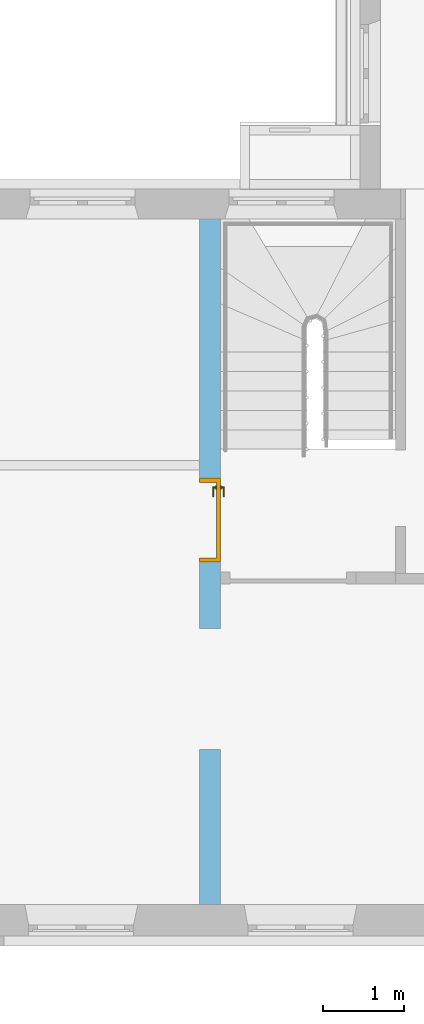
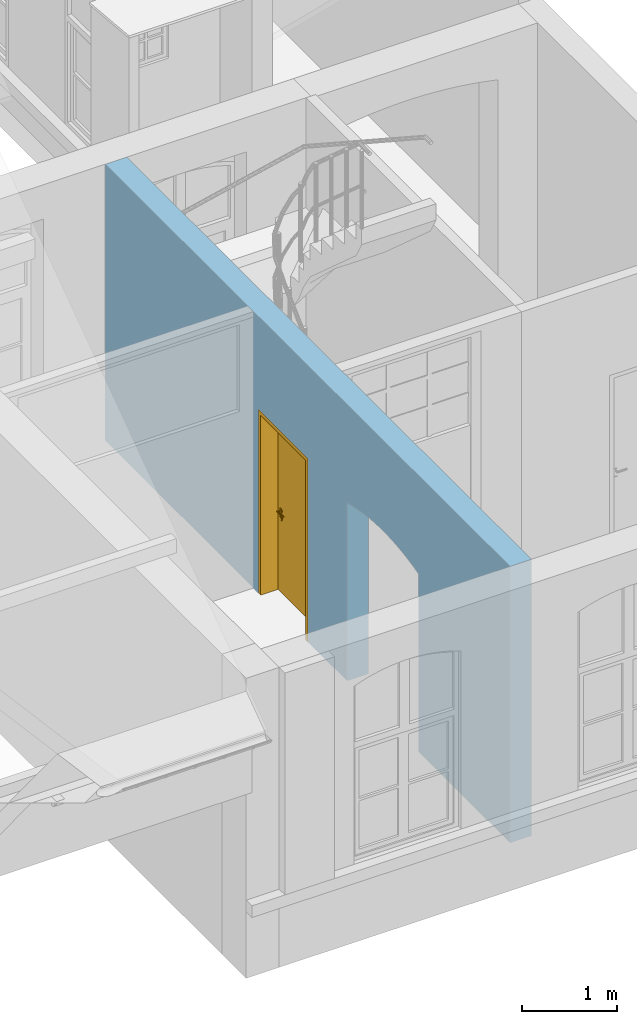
"""IFC4 building model written with IfcOpenShell, lengths in metres."""

import ifcopenshell
import ifcopenshell.guid

model = None  # the IFC model being written
_history = None  # IfcOwnerHistory: only IFC2X3 demands one
_inside = {}  # id of a spatial element -> (the spatial element, [elements in it])
_under = {}  # id of a project, library or spatial element -> (it, [spatial elements below it])
_declared = {}  # id of a project -> (the project, [libraries it declares])
_typed = {}  # id of a type object -> (the type object, [elements of that type])
_made_of = {}  # id of a material, layer set ... -> (it, [elements and type objects made of it])


def new_model(schema):
    """Start an empty IFC model of exactly this schema.

    Asked for "IFC4X3", IfcOpenShell would pick the latest addendum, in which some entities
    have other attributes; the version numbers below select the first issue.
    IFC2X3 requires an IfcOwnerHistory on every rooted entity: one is made here for all.
    """
    global model, _history
    if schema == "IFC4X3":
        model = ifcopenshell.file(schema_version=(4, 3, 0, 0))
    else:
        model = ifcopenshell.file(schema=schema)
    _inside.clear()
    _under.clear()
    _declared.clear()
    _typed.clear()
    _made_of.clear()
    _history = None
    if model.schema == "IFC2X3":
        org = make("IfcOrganization", Name="unknown")
        user = make(
            "IfcPersonAndOrganization",
            ThePerson=make("IfcPerson", FamilyName="unknown"),
            TheOrganization=org,
        )
        app = make(
            "IfcApplication",
            ApplicationDeveloper=org,
            Version="unknown",
            ApplicationFullName="unknown",
            ApplicationIdentifier="unknown",
        )
        _history = make(
            "IfcOwnerHistory",
            OwningUser=user,
            OwningApplication=app,
            ChangeAction="ADDED",
            CreationDate=0,
        )
    return model


def make(cls, **values):
    """One entity of the class cls with the attributes given. An attribute that is None is left unset."""
    return model.create_entity(
        cls, **{name: value for name, value in values.items() if value is not None}
    )


def entity(cls, *values):
    """Any entity or typed value of the class cls, its attributes in the order of the schema. None: left unset."""
    e = model.create_entity(cls)
    for i, value in enumerate(values):
        if value is not None:
            e[i] = value
    return e


def rooted(cls, **values):
    """An entity with a GlobalId (a new one), such as an element, a storey or a relation."""
    return make(cls, GlobalId=ifcopenshell.guid.new(), OwnerHistory=_history, **values)


def si_unit(unit_type, name, prefix=None):
    """IfcSIUnit, for example si_unit("LENGTHUNIT", "METRE", prefix="MILLI")."""
    return make("IfcSIUnit", UnitType=unit_type, Prefix=prefix, Name=name)


def converted_unit(unit_type, name, factor, base, dimensions=None, offset=None):
    """IfcConversionBasedUnit, such as the inch: factor (a typed value) times the base unit."""
    return make(
        "IfcConversionBasedUnit"
        if offset is None
        else "IfcConversionBasedUnitWithOffset",
        ConversionOffset=offset,
        Dimensions=None
        if dimensions is None
        else entity("IfcDimensionalExponents", *dimensions),
        UnitType=unit_type,
        Name=name,
        ConversionFactor=make(
            "IfcMeasureWithUnit", ValueComponent=factor, UnitComponent=base
        ),
    )


def derived_unit(unit_type, elements):
    """IfcDerivedUnit: a product of units, each with its exponent."""
    return make(
        "IfcDerivedUnit",
        Elements=[
            make("IfcDerivedUnitElement", Unit=unit, Exponent=power)
            for unit, power in elements
        ],
        UnitType=unit_type,
    )


def assignment(units):
    """IfcUnitAssignment: the units of a project."""
    return None if units is None else make("IfcUnitAssignment", Units=units)


def point(xyz):
    """IfcCartesianPoint."""
    return None if xyz is None else make("IfcCartesianPoint", Coordinates=xyz)


def direction(xyz):
    """IfcDirection."""
    return None if xyz is None else make("IfcDirection", DirectionRatios=xyz)


def frame(location, z_axis=None, x_axis=None):
    """IfcAxis2Placement3D, a coordinate frame: its origin and axes. An axis left out is left unset."""
    return make(
        "IfcAxis2Placement3D",
        Location=point(location),
        Axis=direction(z_axis),
        RefDirection=direction(x_axis),
    )


def frame_2d(location, x_axis=None):
    """IfcAxis2Placement2D, a coordinate frame in the plane: its origin and x axis."""
    return make(
        "IfcAxis2Placement2D", Location=point(location), RefDirection=direction(x_axis)
    )


def origin():
    """The frame at (0, 0, 0) with its axes left unset."""
    return frame((0.0, 0.0, 0.0))


def origin_with_axes():
    """The frame at (0, 0, 0) with the z axis (0, 0, 1) and the x axis (1, 0, 0) written out."""
    return frame((0.0, 0.0, 0.0), z_axis=(0.0, 0.0, 1.0), x_axis=(1.0, 0.0, 0.0))


def place(relative_to, where):
    """IfcLocalPlacement: puts the frame where relative to a parent placement (None: the world)."""
    return make(
        "IfcLocalPlacement", PlacementRelTo=relative_to, RelativePlacement=where
    )


def context(
    kind, dimensions, precision=None, world=None, true_north=None, identifier=None
):
    """IfcGeometricRepresentationContext, for example the 3D "Model" context."""
    return make(
        "IfcGeometricRepresentationContext",
        ContextIdentifier=identifier,
        ContextType=kind,
        CoordinateSpaceDimension=dimensions,
        Precision=precision,
        WorldCoordinateSystem=world,
        TrueNorth=true_north,
    )


def subcontext(parent, identifier, kind, view, scale=None):
    """IfcGeometricRepresentationSubContext, for example "Body" below "Model"."""
    return make(
        "IfcGeometricRepresentationSubContext",
        ContextIdentifier=identifier,
        ContextType=kind,
        ParentContext=parent,
        TargetScale=scale,
        TargetView=view,
    )


def project(units=None, contexts=None):
    """IfcProject with its units and contexts."""
    return rooted(
        "IfcProject",
        Name="project",
        RepresentationContexts=contexts,
        UnitsInContext=assignment(units),
    )


def spatial(cls, under=None, at=None, **own):
    """A site, building, storey or space (cls), placed at a placement, below another one or the project."""
    s = rooted(cls, ObjectPlacement=at, **own)
    if under is not None:
        _under.setdefault(under.id(), (under, []))[1].append(s)
    return s


def polyline(points):
    """IfcPolyline through the points."""
    return make("IfcPolyline", Points=[point(p) for p in points])


def profile(cls, at=None, kind="AREA", **sizes):
    """A parametric profile (cls). Its sizes go by their IFC names, for example OverallWidth=200.0."""
    return make(cls, ProfileType=kind, Position=at, **sizes)


def rectangle(**sizes):
    """IfcRectangleProfileDef."""
    return profile("IfcRectangleProfileDef", **sizes)


def outline(outer, holes=None, kind="AREA"):
    """IfcArbitraryClosedProfileDef: a profile drawn as a closed curve; with holes, ...WithVoids."""
    if holes is None:
        return make("IfcArbitraryClosedProfileDef", ProfileType=kind, OuterCurve=outer)
    return make(
        "IfcArbitraryProfileDefWithVoids",
        ProfileType=kind,
        OuterCurve=outer,
        InnerCurves=holes,
    )


def extrude(swept, where, along, depth):
    """IfcExtrudedAreaSolid: the profile swept, set in the frame where, extruded along a direction by depth."""
    return make(
        "IfcExtrudedAreaSolid",
        SweptArea=swept,
        Position=where,
        ExtrudedDirection=direction(along),
        Depth=depth,
    )


def faces_of(points, faces, orient=None, outer=None):
    """IfcFace entities. A face is a list of loops; a loop is a list of indices into points, from 0.

    orient and outer hold one flag for each loop. By default every Orientation is true, the
    first loop of a face is its IfcFaceOuterBound and the others are IfcFaceBound.
    """
    made = []
    for i, loops in enumerate(faces):
        bounds = []
        for j, loop in enumerate(loops):
            is_outer = j == 0 if outer is None else outer[i][j]
            bounds.append(
                make(
                    "IfcFaceOuterBound" if is_outer else "IfcFaceBound",
                    Bound=make("IfcPolyLoop", Polygon=[points[k] for k in loop]),
                    Orientation=True if orient is None else orient[i][j],
                )
            )
        made.append(make("IfcFace", Bounds=bounds))
    return made


def faceted_brep(points, faces, orient=None, outer=None, voids=None):
    """IfcFacetedBrep: a solid bounded by flat faces; with voids (closed shells), ...WithVoids."""
    shared = [point(p) for p in points]
    hull = make("IfcClosedShell", CfsFaces=faces_of(shared, faces, orient, outer))
    if voids is None:
        return make("IfcFacetedBrep", Outer=hull)
    return make(
        "IfcFacetedBrepWithVoids",
        Outer=hull,
        Voids=[
            make(cls, CfsFaces=faces_of(shared, fs, o, b)) for cls, fs, o, b in voids
        ],
    )


def shape(context_of_items, identifier, shape_type, items):
    """IfcShapeRepresentation: the items that make up one representation, for example the "Body"."""
    return make(
        "IfcShapeRepresentation",
        ContextOfItems=context_of_items,
        RepresentationIdentifier=identifier,
        RepresentationType=shape_type,
        Items=items,
    )


def source(mapping_origin, context_of_items, identifier, shape_type, items):
    """IfcRepresentationMap: a shape defined once, which mapped items show again and again."""
    return make(
        "IfcRepresentationMap",
        MappingOrigin=mapping_origin,
        MappedRepresentation=shape(context_of_items, identifier, shape_type, items),
    )


def transform(
    local_origin,
    x_axis=None,
    y_axis=None,
    z_axis=None,
    scale=None,
    scale2=None,
    scale3=None,
    uniform=True,
):
    """IfcCartesianTransformationOperator3D, or its non-uniform kind. x_axis, y_axis, z_axis: its Axis1, 2, 3."""
    if uniform:
        return make(
            "IfcCartesianTransformationOperator3D",
            Axis1=direction(x_axis),
            Axis2=direction(y_axis),
            LocalOrigin=point(local_origin),
            Scale=scale,
            Axis3=direction(z_axis),
        )
    return make(
        "IfcCartesianTransformationOperator3DnonUniform",
        Axis1=direction(x_axis),
        Axis2=direction(y_axis),
        LocalOrigin=point(local_origin),
        Scale=scale,
        Axis3=direction(z_axis),
        Scale2=scale2,
        Scale3=scale3,
    )


def mapped(mapping_source, mapping_target):
    """IfcMappedItem: shows the shape of a source again, moved by a transform."""
    return make(
        "IfcMappedItem", MappingSource=mapping_source, MappingTarget=mapping_target
    )


def material(Name=None, Category=None):
    """IfcMaterial."""
    return make("IfcMaterial", Name=Name, Category=Category)


def layer(
    of_material, thickness, ventilated=None, Name=None, Category=None, Priority=None
):
    """IfcMaterialLayer: one layer of a wall or slab, of a material (None: an air gap)."""
    return make(
        "IfcMaterialLayer",
        Material=of_material,
        LayerThickness=thickness,
        IsVentilated=ventilated,
        Name=Name,
        Category=Category,
        Priority=Priority,
    )


def layer_set(layers, Name=None):
    """IfcMaterialLayerSet."""
    return make("IfcMaterialLayerSet", MaterialLayers=layers, LayerSetName=Name)


def layer_usage(for_layer_set, set_direction, sense, offset, extent=None):
    """IfcMaterialLayerSetUsage: how a layer set lies in its element."""
    return make(
        "IfcMaterialLayerSetUsage",
        ForLayerSet=for_layer_set,
        LayerSetDirection=set_direction,
        DirectionSense=sense,
        OffsetFromReferenceLine=offset,
        ReferenceExtent=extent,
    )


def made_of(thing, what):
    """Note that an element or type object is made of a material, layer set ...; save() writes the relation."""
    if what is not None:
        _made_of.setdefault(what.id(), (what, []))[1].append(thing)
    return thing


def type_object(cls, material=None, **own):
    """A type object (cls), such as IfcWallType, which elements share."""
    return made_of(rooted(cls, **own), material)


def element(
    cls,
    number,
    at=None,
    inside=None,
    cuts=None,
    type_object=None,
    material=None,
    context=None,
    identifier="Body",
    shape_type=None,
    held_by="IfcProductDefinitionShape",
    body=None,
    shapes=None,
    **own,
):
    """One element of the class cls, such as IfcWall. Its Tag is "e" and its number.

    at: its placement. inside: the storey or other place that contains it. cuts: it is an
    opening in that element (IfcRelVoidsElement). A single representation is given by context,
    identifier, shape_type and body (its items); several are given by shapes. held_by: the class
    of the entity that holds the representations. save() writes the other relations.
    """
    e = rooted(cls, Tag="e%d" % number, ObjectPlacement=at, **own)
    if body is not None:
        shapes = [shape(context, identifier, shape_type, body)]
    if shapes is not None:
        e.Representation = make(held_by, Representations=shapes)
    if inside is not None:
        _inside.setdefault(inside.id(), (inside, []))[1].append(e)
    if cuts is not None:
        rooted(
            "IfcRelVoidsElement", RelatingBuildingElement=cuts, RelatedOpeningElement=e
        )
    if type_object is not None:
        _typed.setdefault(type_object.id(), (type_object, []))[1].append(e)
    return made_of(e, material)


def fill(opening, filler):
    """IfcRelFillsElement: the door or window that sits in an opening."""
    return rooted(
        "IfcRelFillsElement",
        RelatingOpeningElement=opening,
        RelatedBuildingElement=filler,
    )


def aggregate(whole, parts):
    """IfcRelAggregates: a whole, such as a stair, and the parts it consists of."""
    return rooted("IfcRelAggregates", RelatingObject=whole, RelatedObjects=parts)


def save(model, path):
    """Write the relations noted so far, then the file.

    IfcRelAggregates (storeys below a building ...), IfcRelContainedInSpatialStructure (elements
    in a storey), IfcRelDefinesByType, IfcRelAssociatesMaterial and IfcRelDeclares: one each for
    every whole, place, type object, material and project.
    """
    for whole, parts in _under.values():
        aggregate(whole, parts)
    for where, things in _inside.values():
        rooted(
            "IfcRelContainedInSpatialStructure",
            RelatedElements=things,
            RelatingStructure=where,
        )
    for kind, things in _typed.values():
        rooted("IfcRelDefinesByType", RelatedObjects=things, RelatingType=kind)
    for what, things in _made_of.values():
        rooted("IfcRelAssociatesMaterial", RelatedObjects=things, RelatingMaterial=what)
    for by, libraries in _declared.values():
        rooted("IfcRelDeclares", RelatingContext=by, RelatedDefinitions=libraries)
    model.write(path)


model = new_model("IFC4")

# Units and contexts
model_context = context("Model", 3, precision=1e-05, world=origin())
body_context = subcontext(model_context, "Body", "Model", "MODEL_VIEW")
ifc_project = project(units=[si_unit("LENGTHUNIT", "METRE"), si_unit("AREAUNIT", "SQUARE_METRE"), si_unit("VOLUMEUNIT", "CUBIC_METRE"), si_unit("MASSUNIT", "GRAM", prefix="KILO"), converted_unit("PLANEANGLEUNIT", "DEGREE", entity("IfcPlaneAngleMeasure", 0.0174532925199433), si_unit("PLANEANGLEUNIT", "RADIAN"), dimensions=[0, 0, 0, 0, 0, 0, 0]), derived_unit("THERMALTRANSMITTANCEUNIT", [(si_unit("POWERUNIT", "WATT"), 1), (si_unit("THERMODYNAMICTEMPERATUREUNIT", "KELVIN"), -1), (si_unit("LENGTHUNIT", "METRE"), -2)]), derived_unit("VOLUMETRICFLOWRATEUNIT", [(si_unit("LENGTHUNIT", "METRE"), 3), (converted_unit("TIMEUNIT", "hour", entity("IfcTimeMeasure", 3600.0), si_unit("TIMEUNIT", "SECOND"), dimensions=[0, 0, 1, 0, 0, 0, 0]), -1), (si_unit("LENGTHUNIT", "METRE"), -1)])], contexts=[model_context])

# Building, storeys
building_placement = place(None, origin())
building = spatial("IfcBuilding", under=ifc_project, at=building_placement, Name="Bestandsgebäude A - Sporthalle / Wohnhaus (TB 100-499)   ANPASSEN !!!", CompositionType="ELEMENT")
storey_1_placement = place(building_placement, frame((0.0, 0.0, 3.87)))
storey_1 = spatial("IfcBuildingStorey", under=building, at=storey_1_placement, Name="Geb. A 1. Obergeschoss (TB 250-299)", CompositionType="ELEMENT", Elevation=3.87)
storey_2_placement = place(storey_1_placement, frame((0.0, 0.0, 3.87)))
storey_2 = spatial("IfcBuildingStorey", under=storey_1, at=storey_2_placement, Name="Architektur (TB 250-259)", CompositionType="PARTIAL")

# Wall, openings, door
ifc_material = material(Name="masonry")
ifc_layer = layer(ifc_material, 0.26)
ifc_layer_set = layer_set([ifc_layer])
ifc_layer_usage = layer_usage(ifc_layer_set, "AXIS2", "POSITIVE", 0.0)
wall_placement = place(storey_2_placement, frame((-5.48, 8.88, -3.97), z_axis=(0.0, 0.0, 1.0), x_axis=(0.0, -1.0, 0.0)))
wall = element("IfcWall", 1, at=wall_placement, inside=storey_2, material=ifc_layer_usage, Name="masonry load-bearing", PredefinedType="USERDEFINED", context=body_context, shape_type="SweptSolid", body=[
    extrude(rectangle(XDim=8.49, YDim=0.26, at=frame_2d((4.245, 0.13), x_axis=(1.0, 0.0))), origin_with_axes(), (0.0, 0.0, 1.0), 3.54),
])
opening_1_placement = place(wall_placement, frame((3.21, 0.0, 0.0), z_axis=(0.0, 1.0, 0.0), x_axis=(0.0, 0.0, 1.0)))
opening_1 = element("IfcOpeningElement", 2, at=opening_1_placement, cuts=wall, Name="Door opening", PredefinedType="OPENING", context=body_context, shape_type="SweptSolid", body=[
    extrude(outline(polyline([(2.35, 1.04), (2.35, 0.0), (0.0, 0.0), (0.0, 1.04), (2.35, 1.04)])), origin_with_axes(), (0.0, 0.0, 1.0), 0.26),
])
opening_2_placement = place(wall_placement, frame((5.07, 0.0, 0.0), z_axis=(0.0, 1.0, 0.0), x_axis=(0.0, 0.0, 1.0)))
element("IfcOpeningElement", 3, at=opening_2_placement, cuts=wall, Name="Door opening", PredefinedType="OPENING", context=body_context, shape_type="SweptSolid", body=[
    extrude(outline(polyline([(2.28, 1.5), (2.29282303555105, 1.45106226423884), (2.30477921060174, 1.40190555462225), (2.31586479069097, 1.35254522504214), (2.32607631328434, 1.30299669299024), (2.33541058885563, 1.25327543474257), (2.34386470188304, 1.20339698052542), (2.35143601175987, 1.1533769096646), (2.35812215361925, 1.10323084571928), (2.36392103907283, 1.05297445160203), (2.36883085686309, 1.00262342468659), (2.37285007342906, 0.952193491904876), (2.37597743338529, 0.901700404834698), (2.37821195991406, 0.851159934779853), (2.37955295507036, 0.800587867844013), (2.38, 0.75), (2.37955295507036, 0.699412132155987), (2.37821195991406, 0.648840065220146), (2.3759774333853, 0.598299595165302), (2.37285007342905, 0.547806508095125), (2.36883085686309, 0.497376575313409), (2.36392103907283, 0.447025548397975), (2.35812215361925, 0.396769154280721), (2.35143601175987, 0.346623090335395), (2.34386470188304, 0.296603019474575), (2.33541058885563, 0.246724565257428), (2.32607631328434, 0.197003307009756), (2.31586479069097, 0.147454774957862), (2.30477921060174, 0.098094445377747), (2.29282303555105, 0.0489377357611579), (2.28, 0.0), (0.0, 0.0), (0.0, 1.5), (2.28, 1.5)])), origin_with_axes(), (0.0, 0.0, 1.0), 0.26),
])
door_type = type_object("IfcDoorType", Name="door", OperationType="SINGLE_SWING_RIGHT", ParameterTakesPrecedence=False, PredefinedType="DOOR")
shared_shape = source(origin_with_axes(), body_context, "Body", "Brep", [
    faceted_brep([(0.0, 0.260000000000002, 2.35), (0.0, 0.260000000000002, 0.0), (0.0500000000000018, 0.260000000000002, 0.0), (0.0500000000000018, 0.260000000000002, 2.35), (0.0, 0.0, 0.0), (0.0, 0.0, 2.35), (0.0500000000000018, 0.0, 2.35), (0.0500000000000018, 0.0, 0.0)], [[[0, 1, 2, 3]], [[4, 5, 6, 7]], [[1, 0, 5, 4]], [[2, 1, 4, 7]], [[3, 2, 7, 6]], [[0, 3, 6, 5]]], orient=[[False], [False], [False], [False], [False], [False]]),
    faceted_brep([(0.990000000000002, 0.260000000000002, 2.35), (0.990000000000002, 0.260000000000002, 0.0), (1.04, 0.260000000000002, 0.0), (1.04, 0.260000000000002, 2.35), (0.990000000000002, 0.0, 0.0), (0.990000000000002, 0.0, 2.35), (1.04, 0.0, 2.35), (1.04, 0.0, 0.0)], [[[0, 1, 2, 3]], [[4, 5, 6, 7]], [[1, 0, 5, 4]], [[2, 1, 4, 7]], [[3, 2, 7, 6]], [[0, 3, 6, 5]]], orient=[[False], [False], [False], [False], [False], [False]]),
    faceted_brep([(0.0500000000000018, 0.260000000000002, 2.35), (0.0500000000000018, 0.260000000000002, 2.3), (0.990000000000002, 0.260000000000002, 2.3), (0.990000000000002, 0.260000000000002, 2.35), (0.0500000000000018, 0.0, 2.3), (0.0500000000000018, 0.0, 2.35), (0.990000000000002, 0.0, 2.35), (0.990000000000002, 0.0, 2.3)], [[[0, 1, 2, 3]], [[4, 5, 6, 7]], [[1, 0, 5, 4]], [[2, 1, 4, 7]], [[3, 2, 7, 6]], [[0, 3, 6, 5]]], orient=[[False], [False], [False], [False], [False], [False]]),
    faceted_brep([(0.0500000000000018, 0.260000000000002, 2.3), (0.0500000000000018, 0.260000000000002, 0.0), (0.990000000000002, 0.260000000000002, 0.0), (0.990000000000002, 0.260000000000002, 2.3), (0.0500000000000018, 0.210000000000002, 0.0), (0.0500000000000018, 0.210000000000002, 2.3), (0.990000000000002, 0.210000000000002, 2.3), (0.990000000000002, 0.210000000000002, 0.0)], [[[0, 1, 2, 3]], [[4, 5, 6, 7]], [[1, 0, 5, 4]], [[2, 1, 4, 7]], [[3, 2, 7, 6]], [[0, 3, 6, 5]]], orient=[[False], [False], [False], [False], [False], [False]]),
    faceted_brep([(0.138815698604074, 0.210000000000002, 0.93625), (0.142500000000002, 0.210000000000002, 0.95), (0.138815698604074, 0.210000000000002, 0.96375), (0.128750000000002, 0.210000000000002, 0.973815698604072), (0.115000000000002, 0.210000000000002, 0.9775), (0.101250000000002, 0.210000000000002, 0.973815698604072), (0.0911843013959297, 0.210000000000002, 0.96375), (0.0875000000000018, 0.210000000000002, 0.95), (0.0911843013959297, 0.210000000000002, 0.93625), (0.101250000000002, 0.210000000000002, 0.926184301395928), (0.115000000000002, 0.210000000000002, 0.9225), (0.128750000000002, 0.210000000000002, 0.926184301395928), (0.142500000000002, 0.197500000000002, 0.95), (0.138815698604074, 0.197500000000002, 0.93625), (0.128750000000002, 0.197500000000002, 0.926184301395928), (0.115000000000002, 0.197500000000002, 0.9225), (0.101250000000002, 0.197500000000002, 0.926184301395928), (0.0911843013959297, 0.197500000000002, 0.93625), (0.0875000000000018, 0.197500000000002, 0.95), (0.0911843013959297, 0.197500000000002, 0.96375), (0.101250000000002, 0.197500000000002, 0.973815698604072), (0.115000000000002, 0.197500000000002, 0.9775), (0.128750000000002, 0.197500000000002, 0.973815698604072), (0.138815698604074, 0.197500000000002, 0.96375)], [[[0, 1, 2, 3, 4, 5, 6, 7, 8, 9, 10, 11]], [[12, 13, 14, 15, 16, 17, 18, 19, 20, 21, 22, 23]], [[1, 0, 13, 12]], [[2, 1, 12, 23]], [[3, 2, 23, 22]], [[4, 3, 22, 21]], [[5, 4, 21, 20]], [[6, 5, 20, 19]], [[7, 6, 19, 18]], [[8, 7, 18, 17]], [[9, 8, 17, 16]], [[10, 9, 16, 15]], [[11, 10, 15, 14]], [[0, 11, 14, 13]]], orient=[[False], [False], [False], [False], [False], [False], [False], [False], [False], [False], [False], [False], [False], [False]]),
    faceted_brep([(0.138815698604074, 0.210000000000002, 1.03625), (0.142500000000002, 0.210000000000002, 1.05), (0.138815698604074, 0.210000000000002, 1.06375), (0.128750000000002, 0.210000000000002, 1.07381569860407), (0.115000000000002, 0.210000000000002, 1.0775), (0.101250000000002, 0.210000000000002, 1.07381569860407), (0.0911843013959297, 0.210000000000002, 1.06375), (0.0875000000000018, 0.210000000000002, 1.05), (0.0911843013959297, 0.210000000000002, 1.03625), (0.101250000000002, 0.210000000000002, 1.02618430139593), (0.115000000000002, 0.210000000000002, 1.0225), (0.128750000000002, 0.210000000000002, 1.02618430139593), (0.142500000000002, 0.197500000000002, 1.05), (0.138815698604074, 0.197500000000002, 1.03625), (0.128750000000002, 0.197500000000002, 1.02618430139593), (0.115000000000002, 0.197500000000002, 1.0225), (0.101250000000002, 0.197500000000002, 1.02618430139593), (0.0911843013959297, 0.197500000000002, 1.03625), (0.0875000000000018, 0.197500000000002, 1.05), (0.0911843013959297, 0.197500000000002, 1.06375), (0.101250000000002, 0.197500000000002, 1.07381569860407), (0.115000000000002, 0.197500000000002, 1.0775), (0.128750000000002, 0.197500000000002, 1.07381569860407), (0.138815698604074, 0.197500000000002, 1.06375)], [[[0, 1, 2, 3, 4, 5, 6, 7, 8, 9, 10, 11]], [[12, 13, 14, 15, 16, 17, 18, 19, 20, 21, 22, 23]], [[1, 0, 13, 12]], [[2, 1, 12, 23]], [[3, 2, 23, 22]], [[4, 3, 22, 21]], [[5, 4, 21, 20]], [[6, 5, 20, 19]], [[7, 6, 19, 18]], [[8, 7, 18, 17]], [[9, 8, 17, 16]], [[10, 9, 16, 15]], [[11, 10, 15, 14]], [[0, 11, 14, 13]]], orient=[[False], [False], [False], [False], [False], [False], [False], [False], [False], [False], [False], [False], [False], [False]]),
    faceted_brep([(0.115000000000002, 0.210000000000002, 1.06), (0.110000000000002, 0.210000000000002, 1.05866025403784), (0.106339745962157, 0.210000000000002, 1.055), (0.105000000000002, 0.210000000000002, 1.05), (0.106339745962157, 0.210000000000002, 1.045), (0.110000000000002, 0.210000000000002, 1.04133974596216), (0.115000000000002, 0.210000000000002, 1.04), (0.120000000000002, 0.210000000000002, 1.04133974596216), (0.123660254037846, 0.210000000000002, 1.045), (0.125000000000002, 0.210000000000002, 1.05), (0.123660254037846, 0.210000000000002, 1.055), (0.120000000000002, 0.210000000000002, 1.05866025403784), (0.115000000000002, 0.170000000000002, 1.06), (0.110000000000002, 0.165000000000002, 1.05866025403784), (0.106339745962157, 0.161339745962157, 1.055), (0.105000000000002, 0.160000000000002, 1.05), (0.106339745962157, 0.161339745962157, 1.045), (0.110000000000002, 0.165000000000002, 1.04133974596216), (0.115000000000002, 0.170000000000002, 1.04), (0.120000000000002, 0.175000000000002, 1.04133974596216), (0.123660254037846, 0.178660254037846, 1.045), (0.125000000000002, 0.180000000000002, 1.05), (0.123660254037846, 0.178660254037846, 1.055), (0.120000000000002, 0.175000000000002, 1.05866025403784), (0.230000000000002, 0.170000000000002, 1.06), (0.230000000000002, 0.175000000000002, 1.05866025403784), (0.230000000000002, 0.178660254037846, 1.055), (0.230000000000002, 0.180000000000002, 1.05), (0.230000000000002, 0.178660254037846, 1.045), (0.230000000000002, 0.175000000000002, 1.04133974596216), (0.230000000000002, 0.170000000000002, 1.04), (0.230000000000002, 0.165000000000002, 1.04133974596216), (0.230000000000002, 0.161339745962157, 1.045), (0.230000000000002, 0.160000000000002, 1.05), (0.230000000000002, 0.161339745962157, 1.055), (0.230000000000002, 0.165000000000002, 1.05866025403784)], [[[0, 1, 2, 3, 4, 5, 6, 7, 8, 9, 10, 11]], [[0, 12, 13, 1]], [[1, 13, 14, 2]], [[2, 14, 15, 3]], [[3, 15, 16, 4]], [[4, 16, 17, 5]], [[5, 17, 18, 6]], [[6, 18, 19, 7]], [[7, 19, 20, 8]], [[8, 20, 21, 9]], [[9, 21, 22, 10]], [[10, 22, 23, 11]], [[11, 23, 12, 0]], [[24, 25, 26, 27, 28, 29, 30, 31, 32, 33, 34, 35]], [[12, 24, 35, 13]], [[13, 35, 34, 14]], [[14, 34, 33, 15]], [[15, 33, 32, 16]], [[16, 32, 31, 17]], [[17, 31, 30, 18]], [[18, 30, 29, 19]], [[19, 29, 28, 20]], [[20, 28, 27, 21]], [[21, 27, 26, 22]], [[22, 26, 25, 23]], [[23, 25, 24, 12]]], orient=[[False], [False], [False], [False], [False], [False], [False], [False], [False], [False], [False], [False], [False], [False], [False], [False], [False], [False], [False], [False], [False], [False], [False], [False], [False], [False]]),
    faceted_brep([(0.138815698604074, 0.260000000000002, 0.93625), (0.128750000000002, 0.260000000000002, 0.926184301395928), (0.115000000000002, 0.260000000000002, 0.9225), (0.101250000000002, 0.260000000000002, 0.926184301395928), (0.0911843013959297, 0.260000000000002, 0.93625), (0.0875000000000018, 0.260000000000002, 0.95), (0.0911843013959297, 0.260000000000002, 0.96375), (0.101250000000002, 0.260000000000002, 0.973815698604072), (0.115000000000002, 0.260000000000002, 0.9775), (0.128750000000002, 0.260000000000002, 0.973815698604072), (0.138815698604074, 0.260000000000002, 0.96375), (0.142500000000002, 0.260000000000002, 0.95), (0.142500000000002, 0.272500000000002, 0.95), (0.138815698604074, 0.272500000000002, 0.96375), (0.128750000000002, 0.272500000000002, 0.973815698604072), (0.115000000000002, 0.272500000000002, 0.9775), (0.101250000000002, 0.272500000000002, 0.973815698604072), (0.0911843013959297, 0.272500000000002, 0.96375), (0.0875000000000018, 0.272500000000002, 0.95), (0.0911843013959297, 0.272500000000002, 0.93625), (0.101250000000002, 0.272500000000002, 0.926184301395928), (0.115000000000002, 0.272500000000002, 0.9225), (0.128750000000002, 0.272500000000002, 0.926184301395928), (0.138815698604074, 0.272500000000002, 0.93625)], [[[0, 1, 2, 3, 4, 5, 6, 7, 8, 9, 10, 11]], [[12, 13, 14, 15, 16, 17, 18, 19, 20, 21, 22, 23]], [[11, 12, 23, 0]], [[10, 13, 12, 11]], [[9, 14, 13, 10]], [[8, 15, 14, 9]], [[7, 16, 15, 8]], [[6, 17, 16, 7]], [[5, 18, 17, 6]], [[4, 19, 18, 5]], [[3, 20, 19, 4]], [[2, 21, 20, 3]], [[1, 22, 21, 2]], [[0, 23, 22, 1]]], orient=[[False], [False], [False], [False], [False], [False], [False], [False], [False], [False], [False], [False], [False], [False]]),
    faceted_brep([(0.138815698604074, 0.260000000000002, 1.03625), (0.128750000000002, 0.260000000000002, 1.02618430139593), (0.115000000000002, 0.260000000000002, 1.0225), (0.101250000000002, 0.260000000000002, 1.02618430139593), (0.0911843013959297, 0.260000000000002, 1.03625), (0.0875000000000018, 0.260000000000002, 1.05), (0.0911843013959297, 0.260000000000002, 1.06375), (0.101250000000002, 0.260000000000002, 1.07381569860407), (0.115000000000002, 0.260000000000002, 1.0775), (0.128750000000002, 0.260000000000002, 1.07381569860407), (0.138815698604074, 0.260000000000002, 1.06375), (0.142500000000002, 0.260000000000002, 1.05), (0.142500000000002, 0.272500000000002, 1.05), (0.138815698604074, 0.272500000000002, 1.06375), (0.128750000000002, 0.272500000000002, 1.07381569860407), (0.115000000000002, 0.272500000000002, 1.0775), (0.101250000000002, 0.272500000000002, 1.07381569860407), (0.0911843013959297, 0.272500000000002, 1.06375), (0.0875000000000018, 0.272500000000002, 1.05), (0.0911843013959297, 0.272500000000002, 1.03625), (0.101250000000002, 0.272500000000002, 1.02618430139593), (0.115000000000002, 0.272500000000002, 1.0225), (0.128750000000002, 0.272500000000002, 1.02618430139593), (0.138815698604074, 0.272500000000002, 1.03625)], [[[0, 1, 2, 3, 4, 5, 6, 7, 8, 9, 10, 11]], [[12, 13, 14, 15, 16, 17, 18, 19, 20, 21, 22, 23]], [[11, 12, 23, 0]], [[10, 13, 12, 11]], [[9, 14, 13, 10]], [[8, 15, 14, 9]], [[7, 16, 15, 8]], [[6, 17, 16, 7]], [[5, 18, 17, 6]], [[4, 19, 18, 5]], [[3, 20, 19, 4]], [[2, 21, 20, 3]], [[1, 22, 21, 2]], [[0, 23, 22, 1]]], orient=[[False], [False], [False], [False], [False], [False], [False], [False], [False], [False], [False], [False], [False], [False]]),
    faceted_brep([(0.115000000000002, 0.260000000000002, 1.06), (0.120000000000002, 0.260000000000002, 1.05866025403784), (0.123660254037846, 0.260000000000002, 1.055), (0.125000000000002, 0.260000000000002, 1.05), (0.123660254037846, 0.260000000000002, 1.045), (0.120000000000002, 0.260000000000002, 1.04133974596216), (0.115000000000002, 0.260000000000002, 1.04), (0.110000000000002, 0.260000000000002, 1.04133974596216), (0.106339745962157, 0.260000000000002, 1.045), (0.105000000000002, 0.260000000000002, 1.05), (0.106339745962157, 0.260000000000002, 1.055), (0.110000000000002, 0.260000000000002, 1.05866025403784), (0.110000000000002, 0.305000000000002, 1.05866025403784), (0.115000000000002, 0.300000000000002, 1.06), (0.106339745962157, 0.308660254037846, 1.055), (0.105000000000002, 0.310000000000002, 1.05), (0.106339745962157, 0.308660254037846, 1.045), (0.110000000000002, 0.305000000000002, 1.04133974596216), (0.115000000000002, 0.300000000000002, 1.04), (0.120000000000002, 0.295000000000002, 1.04133974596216), (0.123660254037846, 0.291339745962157, 1.045), (0.125000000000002, 0.290000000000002, 1.05), (0.123660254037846, 0.291339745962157, 1.055), (0.120000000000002, 0.295000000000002, 1.05866025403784), (0.230000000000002, 0.300000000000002, 1.06), (0.230000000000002, 0.305000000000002, 1.05866025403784), (0.230000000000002, 0.308660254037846, 1.055), (0.230000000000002, 0.310000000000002, 1.05), (0.230000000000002, 0.308660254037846, 1.045), (0.230000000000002, 0.305000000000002, 1.04133974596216), (0.230000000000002, 0.300000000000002, 1.04), (0.230000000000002, 0.295000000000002, 1.04133974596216), (0.230000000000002, 0.291339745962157, 1.045), (0.230000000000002, 0.290000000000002, 1.05), (0.230000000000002, 0.291339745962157, 1.055), (0.230000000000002, 0.295000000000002, 1.05866025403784)], [[[0, 1, 2, 3, 4, 5, 6, 7, 8, 9, 10, 11]], [[0, 11, 12, 13]], [[11, 10, 14, 12]], [[10, 9, 15, 14]], [[9, 8, 16, 15]], [[8, 7, 17, 16]], [[7, 6, 18, 17]], [[6, 5, 19, 18]], [[5, 4, 20, 19]], [[4, 3, 21, 20]], [[3, 2, 22, 21]], [[2, 1, 23, 22]], [[1, 0, 13, 23]], [[24, 25, 26, 27, 28, 29, 30, 31, 32, 33, 34, 35]], [[13, 12, 25, 24]], [[12, 14, 26, 25]], [[14, 15, 27, 26]], [[15, 16, 28, 27]], [[16, 17, 29, 28]], [[17, 18, 30, 29]], [[18, 19, 31, 30]], [[19, 20, 32, 31]], [[20, 21, 33, 32]], [[21, 22, 34, 33]], [[22, 23, 35, 34]], [[23, 13, 24, 35]]], orient=[[False], [False], [False], [False], [False], [False], [False], [False], [False], [False], [False], [False], [False], [False], [False], [False], [False], [False], [False], [False], [False], [False], [False], [False], [False], [False]]),
])
door_placement = place(opening_1_placement, frame((0.0, 0.0, 0.0), z_axis=(1.0, 0.0, 0.0), x_axis=(0.0, 1.0, 0.0)))
door = element("IfcDoor", 4, at=door_placement, inside=storey_2, type_object=door_type, Name="door", OverallHeight=2.35, OverallWidth=1.04, PredefinedType="DOOR", context=body_context, shape_type="MappedRepresentation", body=[
    mapped(shared_shape, transform((0.0, 0.0, 0.0), x_axis=(1.0, 0.0, 0.0), y_axis=(0.0, 1.0, 0.0), z_axis=(0.0, 0.0, 1.0), scale=1.0)),
])
fill(opening_1, door)

save(model, "model.ifc")
